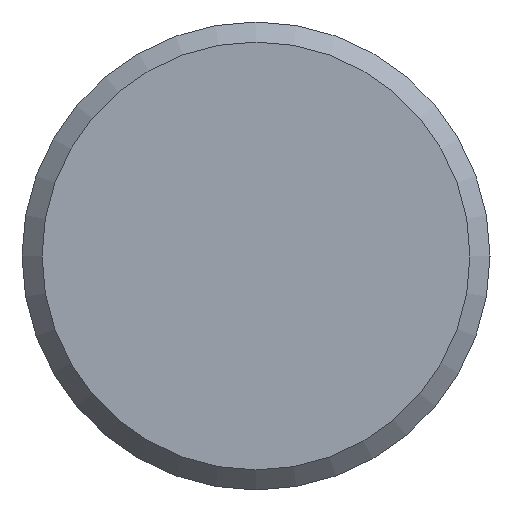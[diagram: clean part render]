
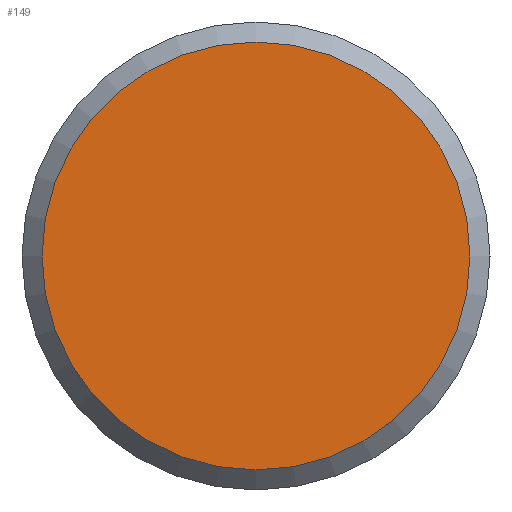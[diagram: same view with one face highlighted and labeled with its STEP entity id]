
A CAD part, left-side view. The second image highlights one B-rep face of the part: STEP entity #149.
In plain terms, the highlighted planar face has unit normal (-1, 0, 0).
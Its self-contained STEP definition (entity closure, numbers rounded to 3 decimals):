
#18=PLANE('',#190);
#28=FACE_OUTER_BOUND('',#38,.T.);
#38=EDGE_LOOP('',(#123));
#61=CIRCLE('',#189,12.8);
#74=VERTEX_POINT('',#278);
#91=EDGE_CURVE('',#74,#74,#61,.T.);
#123=ORIENTED_EDGE('',*,*,#91,.F.);
#149=ADVANCED_FACE('',(#28),#18,.T.);
#189=AXIS2_PLACEMENT_3D('',#280,#236,#237);
#190=AXIS2_PLACEMENT_3D('',#281,#238,#239);
#236=DIRECTION('center_axis',(1.,0.,0.));
#237=DIRECTION('ref_axis',(0.,-1.,0.));
#238=DIRECTION('center_axis',(-1.,0.,0.));
#239=DIRECTION('ref_axis',(0.,0.,1.));
#278=CARTESIAN_POINT('',(0.,12.8,0.));
#280=CARTESIAN_POINT('Origin',(0.,0.,0.));
#281=CARTESIAN_POINT('Origin',(0.,14.,0.));
